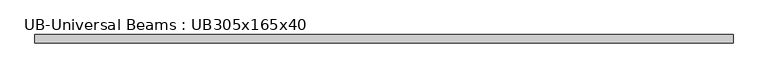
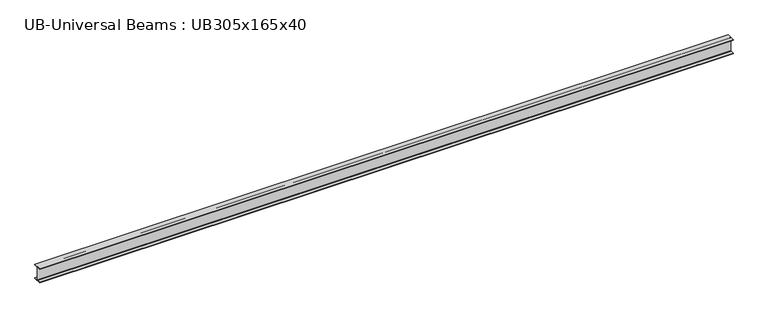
"""IFC4 building model written with IfcOpenShell, lengths in millimetres: beam geometry, UB-Universal Beams : UB305x165x40."""

from ifc_helpers import new_model, si_unit, point, frame, frame_2d, origin, place, context, project, spatial, polyline, circle_curve, trimmed, segment, composite_curve, outline, extrude, source, transform, mapped, element, save


def ub_universal_beams_ub305x165x40_ebd12d4d(model_context):
    return source(origin(), model_context, "Body", "SweptSolid", [
        extrude(outline(composite_curve([segment(polyline([(82.5, -141.5), (82.5, -151.7), (-82.5, -151.7), (-82.5, -141.5), (-11.9, -141.5)]), True, "CONTINUOUS"), segment(trimmed(circle_curve(frame_2d((-11.9, -132.6)), 8.9), [point((-11.9, -141.5))], [point((-3.0, -132.6))], True, "CARTESIAN"), True, "CONTINUOUS"), segment(polyline([(-3.0, -132.6), (-3.0, 132.6)]), True, "CONTINUOUS"), segment(trimmed(circle_curve(frame_2d((-11.9, 132.6)), 8.9), [point((-3.0, 132.6))], [point((-11.9, 141.5))], True, "CARTESIAN"), True, "CONTINUOUS"), segment(polyline([(-11.9, 141.5), (-82.5, 141.5), (-82.5, 151.7), (82.5, 151.7), (82.5, 141.5), (11.9, 141.5)]), True, "CONTINUOUS"), segment(trimmed(circle_curve(frame_2d((11.9, 132.6)), 8.9), [point((11.9, 141.5))], [point((3.0, 132.6))], True, "CARTESIAN"), True, "CONTINUOUS"), segment(polyline([(3.0, 132.6), (3.0, -132.6)]), True, "CONTINUOUS"), segment(trimmed(circle_curve(frame_2d((11.9, -132.6)), 8.9), [point((3.0, -132.6))], [point((11.9, -141.5))], True, "CARTESIAN"), True, "CONTINUOUS"), segment(polyline([(11.9, -141.5), (82.5, -141.5)]), True, "CONTINUOUS")], self_intersect=False)), frame((-6998.35, 0.0, 0.0), z_axis=(1.0, 0.0, 0.0), x_axis=(0.0, 1.0, 0.0)), (0.0, 0.0, 1.0), 14079.2),
    ])


if __name__ == "__main__":
    model = new_model("IFC4")
    model_context = context("Model", 3, world=origin())
    ifc_project = project(units=[si_unit("LENGTHUNIT", "METRE", prefix="MILLI")], contexts=[model_context])
    site = spatial("IfcSite", under=ifc_project)
    building = spatial("IfcBuilding", under=site)
    placement = place(None, origin())
    ub_universal_beams_ub305x165x40_shape = ub_universal_beams_ub305x165x40_ebd12d4d(model_context)
    element("IfcBeam", 1, ObjectType="UB-Universal Beams : UB305x165x40", at=placement, inside=building, context=model_context, shape_type="MappedRepresentation", body=[
        mapped(ub_universal_beams_ub305x165x40_shape, transform((0.0, 0.0, 0.0), x_axis=(1.0, 0.0, 0.0), y_axis=(0.0, 1.0, 0.0), z_axis=(0.0, 0.0, 1.0))),
    ])
    save(model, "model.ifc")
